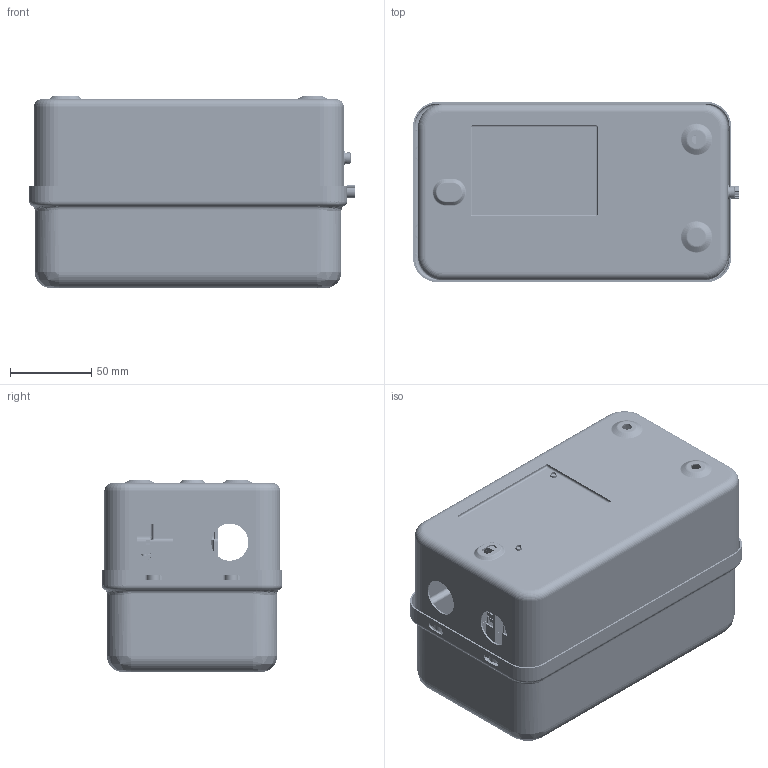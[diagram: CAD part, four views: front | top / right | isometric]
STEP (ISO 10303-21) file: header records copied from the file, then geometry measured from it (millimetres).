
FILE_DESCRIPTION((''),'2;1');
FILE_NAME('CDS2S-32B_ASM','2021-05-24T',('yunfei.yang'),(''),'PRO/ENGINEER BY PARAMETRIC TECHNOLOGY CORPORATION, 2015440','PRO/ENGINEER BY PARAMETRIC TECHNOLOGY CORPORATION, 2015440','');
FILE_SCHEMA(('CONFIG_CONTROL_DESIGN'));
Products named in the file (12): 8004002000; CDC6I-25; 7030100424_GB_T9074_8_M4X12; MANIFOLD_SOLID_BREP_92323; MANIFOLD_SOLID_BREP_94682; MANIFOLD_SOLID_BREP_97041; MANIFOLD_SOLID_BREP_99400; 2331003900_ASM_1_ASM; JR2H-38_ASM; 8004002100; PRT02; CDS2S-32B_ASM
Assembly tree (13 placements, depth 4):
  CDS2S-32B_ASM
    8004002000
    CDC6I-25
    7030100424_GB_T9074_8_M4X12  x3
    JR2H-38_ASM
      2331003900_ASM_1_ASM
        MANIFOLD_SOLID_BREP_92323
        MANIFOLD_SOLID_BREP_94682
        MANIFOLD_SOLID_BREP_97041
        MANIFOLD_SOLID_BREP_99400
    8004002100
    PRT02
Bounding box: 200.79 x 110.7 x 118.2 mm (x, y, z)
Volume: 547069.7 mm3; surface area: 364510.6 mm2
Topology: 11 solids, 20 shells, 8506 faces, 23721 edges, 15154 vertices
Faces by surface type: plane 5334, cylinder 1930, extrusion 418, torus 343, bspline 211, cone 173, sphere 97
Entity records: 290205 total; most frequent: CARTESIAN_POINT 74741, ORIENTED_EDGE 47014, DIRECTION 41960, EDGE_CURVE 23517, VECTOR 16756, LINE 16338, VERTEX_POINT 15070, AXIS2_PLACEMENT_3D 12602
